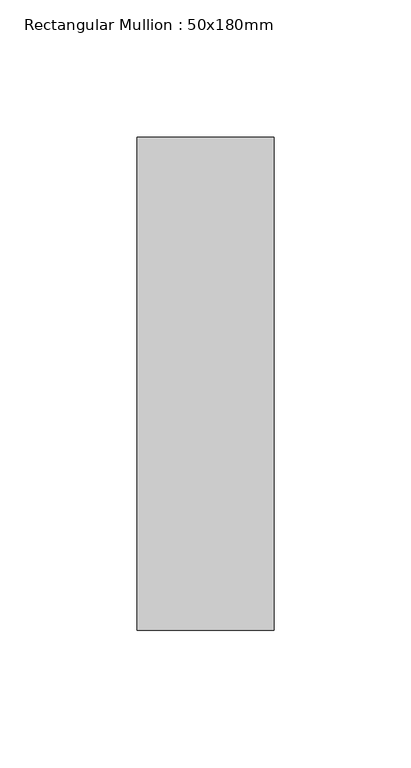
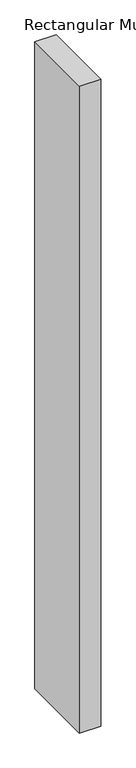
"""IFC4 building model written with IfcOpenShell, lengths in millimetres: member geometry, Rectangular Mullion : 50x180mm."""

from ifc_helpers import new_model, si_unit, frame, origin, place, context, project, spatial, polyline, outline, extrude, source, transform, mapped, element, save


def rectangular_mullion_50x180mm_f781141c(model_context):
    return source(origin(), model_context, "Body", "SweptSolid", [
        extrude(outline(polyline([(25.0, 90.0), (25.0, -90.0), (-25.0, -90.0), (-25.0, 90.0), (25.0, 90.0)])), frame((0.0, 0.0, -1600.0), z_axis=(0.0, 0.0, 1.0), x_axis=(1.0, 0.0, 0.0)), (0.0, 0.0, 1.0), 1600.0),
    ])


if __name__ == "__main__":
    model = new_model("IFC4")
    model_context = context("Model", 3, world=origin())
    ifc_project = project(units=[si_unit("LENGTHUNIT", "METRE", prefix="MILLI")], contexts=[model_context])
    site = spatial("IfcSite", under=ifc_project)
    building = spatial("IfcBuilding", under=site)
    placement = place(None, origin())
    rectangular_mullion_50x180mm_shape = rectangular_mullion_50x180mm_f781141c(model_context)
    element("IfcMember", 1, ObjectType="Rectangular Mullion : 50x180mm", at=placement, inside=building, context=model_context, shape_type="MappedRepresentation", body=[
        mapped(rectangular_mullion_50x180mm_shape, transform((0.0, 0.0, 0.0), x_axis=(1.0, 0.0, 0.0), y_axis=(0.0, 1.0, 0.0), z_axis=(0.0, 0.0, 1.0))),
    ])
    save(model, "model.ifc")
